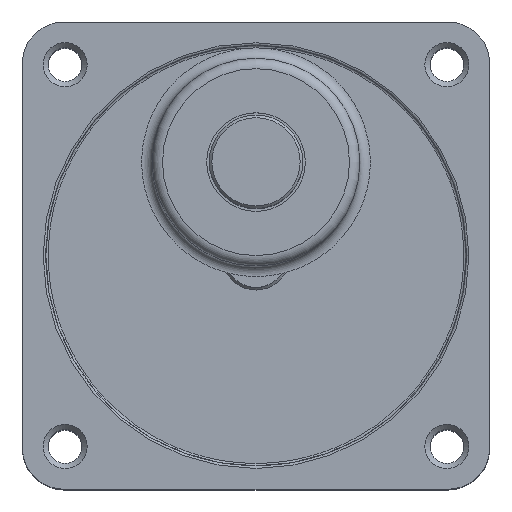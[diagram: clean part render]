
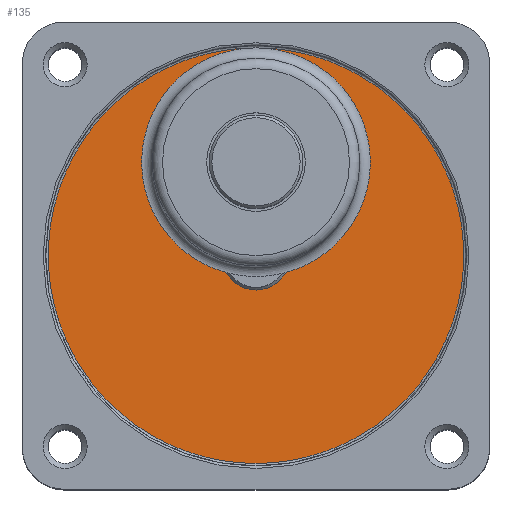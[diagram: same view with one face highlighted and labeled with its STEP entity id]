
A CAD part, top view. The second image highlights one B-rep face of the part: STEP entity #135.
In plain terms, the highlighted planar face has unit normal (0, 0, -1).
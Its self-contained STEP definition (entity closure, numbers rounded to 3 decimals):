
#84=CARTESIAN_POINT('',(-6.5,0.,3.5));
#85=VERTEX_POINT('',#84);
#86=CARTESIAN_POINT('',(0.0,0.0,3.5));
#87=DIRECTION('',(0.0,0.0,-1.0));
#88=DIRECTION('',(1.0,0.0,0.0));
#89=AXIS2_PLACEMENT_3D('',#86,#87,#88);
#90=CIRCLE('',#89,6.5);
#91=EDGE_CURVE('',#85,#85,#90,.T.);
#116=CARTESIAN_POINT('',(0.0,0.0,3.5));
#117=DIRECTION('',(0.0,0.0,1.0));
#118=DIRECTION('',(1.0,0.0,0.0));
#119=AXIS2_PLACEMENT_3D('',#116,#117,#118);
#120=PLANE('',#119);
#121=CARTESIAN_POINT('',(-41.5,0.,3.5));
#122=VERTEX_POINT('',#121);
#123=CARTESIAN_POINT('',(0.0,0.0,3.5));
#124=DIRECTION('',(0.0,0.0,-1.0));
#125=DIRECTION('',(1.0,0.0,0.0));
#126=AXIS2_PLACEMENT_3D('',#123,#124,#125);
#127=CIRCLE('',#126,41.5);
#128=EDGE_CURVE('',#122,#122,#127,.T.);
#129=ORIENTED_EDGE('',*,*,#128,.T.);
#130=EDGE_LOOP('',(#129));
#131=FACE_OUTER_BOUND('',#130,.T.);
#132=ORIENTED_EDGE('',*,*,#91,.F.);
#133=EDGE_LOOP('',(#132));
#134=FACE_BOUND('',#133,.T.);
#135=ADVANCED_FACE('',(#131,#134),#120,.F.);
